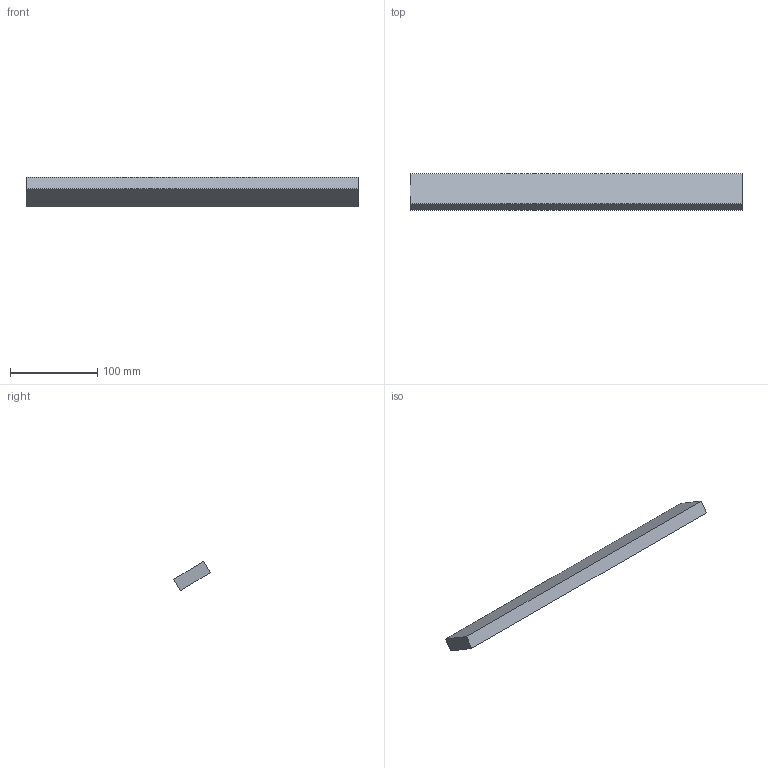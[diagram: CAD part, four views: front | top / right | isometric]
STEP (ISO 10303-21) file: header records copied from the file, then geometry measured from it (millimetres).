
FILE_DESCRIPTION(('Open CASCADE Model'),'2;1');
FILE_NAME('Open CASCADE Shape Model','2026-09-19T12:55:26',('Author'),( 'Open CASCADE'),'Open CASCADE STEP processor 7.9','Open CASCADE 7.9' ,'Unknown');
FILE_SCHEMA(('AUTOMOTIVE_DESIGN { 1 0 10303 214 1 1 1 1 }'));
Length unit declared in the file: millimetre
Products named in the file (1): Open CASCADE STEP translator 7.9 489
Bounding box: 380 x 42 x 33.52 mm (x, y, z)
Volume: 228000 mm3; surface area: 43000 mm2
Topology: 1 solids, 1 shells, 6 faces, 12 edges, 8 vertices
Faces by surface type: plane 6
Entity records: 322 total; most frequent: CARTESIAN_POINT 51, DIRECTION 50, LINE 36, VECTOR 36, ORIENTED_EDGE 24, PCURVE 24, DEFINITIONAL_REPRESENTATION 24, EDGE_CURVE 12
